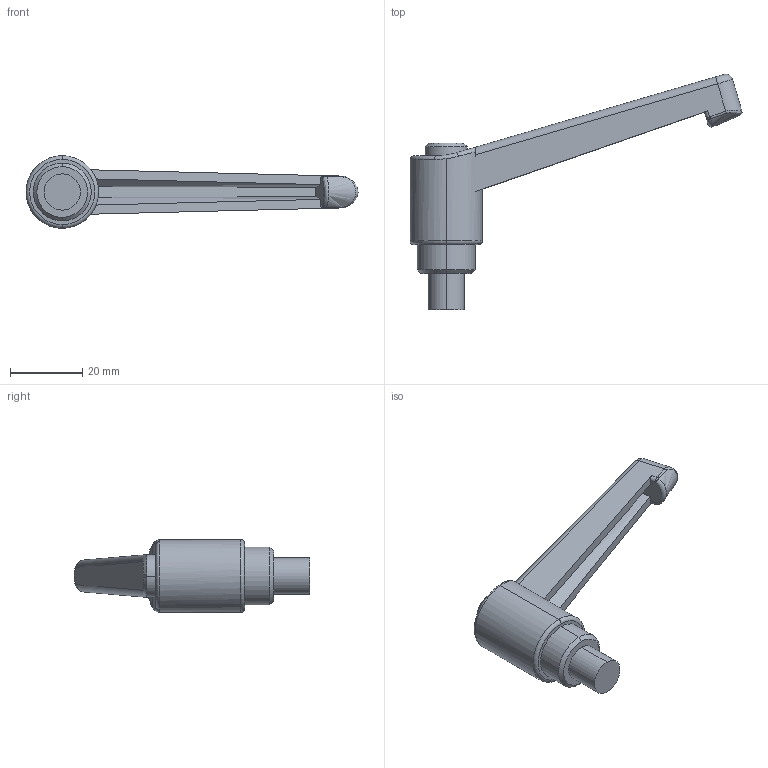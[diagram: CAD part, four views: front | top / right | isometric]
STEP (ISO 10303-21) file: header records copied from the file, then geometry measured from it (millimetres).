
FILE_DESCRIPTION (( 'STEP AP203' ), '1' );
FILE_NAME ('AS-406-78-M10.STEP', '2015-11-23T07:12:23', ( '' ), ( '' ), 'SwSTEP 2.0', 'SolidWorks 2014', '' );
FILE_SCHEMA (( 'CONFIG_CONTROL_DESIGN' ));
Length unit declared in the file: millimetre
Products named in the file (1): AS-406-78-M10
Bounding box: 91.66 x 65.01 x 20 mm (x, y, z)
Volume: 16983.7 mm3; surface area: 6287 mm2
Topology: 1 solids, 1 shells, 54 faces, 128 edges, 78 vertices
Faces by surface type: plane 16, cylinder 15, bspline 11, torus 4, cone 4, sphere 4
Entity records: 2109 total; most frequent: CARTESIAN_POINT 883, ORIENTED_EDGE 256, DIRECTION 225, EDGE_CURVE 128, AXIS2_PLACEMENT_3D 94, VERTEX_POINT 78, EDGE_LOOP 56, FACE_OUTER_BOUND 54
